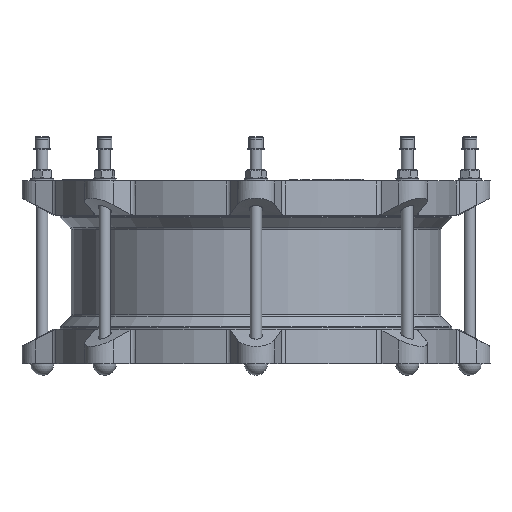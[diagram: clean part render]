
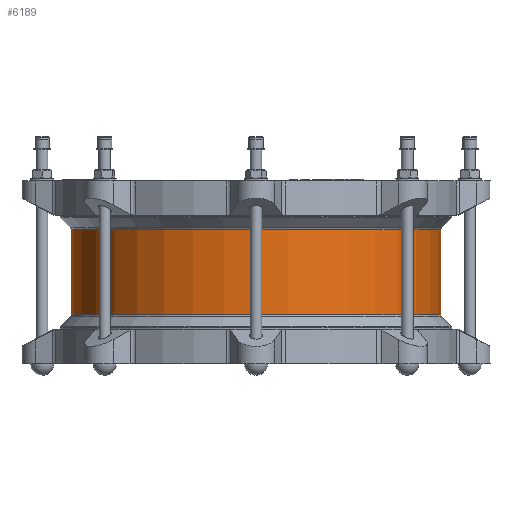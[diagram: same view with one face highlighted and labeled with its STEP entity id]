
A CAD part, front view. The second image highlights one B-rep face of the part: STEP entity #6189.
In plain terms, the highlighted cylindrical face has radius 221 mm (diameter 442 mm), a full revolution.
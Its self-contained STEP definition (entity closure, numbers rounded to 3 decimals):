
#6189=ADVANCED_FACE('',(#11503,#11505),#11507,.T.);
#11503=FACE_OUTER_BOUND('',#11504,.T.);
#11504=EDGE_LOOP('',(#17091));
#11505=FACE_OUTER_BOUND('',#11506,.T.);
#11506=EDGE_LOOP('',(#17092));
#11507=CYLINDRICAL_SURFACE('',#11508,221.);
#11508=AXIS2_PLACEMENT_3D('',#11509,#11510,#11511);
#11509=CARTESIAN_POINT('',(0.,0.,52.257));
#11510=DIRECTION('',(0.,0.,-1.));
#11511=DIRECTION('',(0.,1.,0.));
#17091=ORIENTED_EDGE('',*,*,#19463,.T.);
#17092=ORIENTED_EDGE('',*,*,#19464,.F.);
#19463=EDGE_CURVE('',#22765,#22765,#22766,.T.);
#19464=EDGE_CURVE('',#22767,#22767,#22768,.T.);
#22765=VERTEX_POINT('',#34352);
#22766=CIRCLE('',#34353,221.);
#22767=VERTEX_POINT('',#34357);
#22768=CIRCLE('',#34358,221.);
#34352=CARTESIAN_POINT('',(0.,221.,51.015));
#34353=AXIS2_PLACEMENT_3D('',#34354,#34355,#34356);
#34354=CARTESIAN_POINT('',(0.,0.,51.015));
#34355=DIRECTION('',(0.,0.,-1.));
#34356=DIRECTION('',(0.,1.,0.));
#34357=CARTESIAN_POINT('',(0.,221.,-51.015));
#34358=AXIS2_PLACEMENT_3D('',#34359,#34360,#34361);
#34359=CARTESIAN_POINT('',(0.,0.,-51.015));
#34360=DIRECTION('',(0.,0.,-1.));
#34361=DIRECTION('',(0.,1.,0.));
